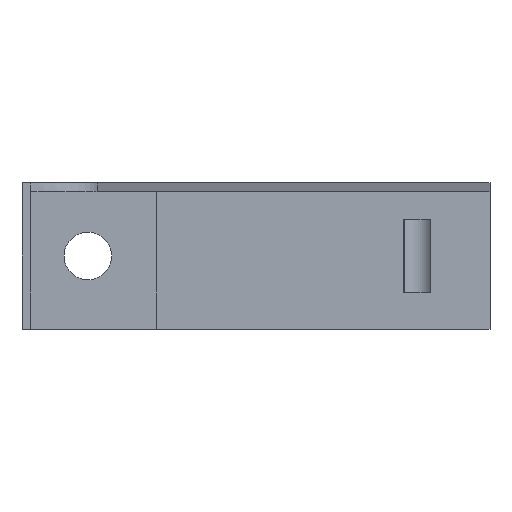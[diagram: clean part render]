
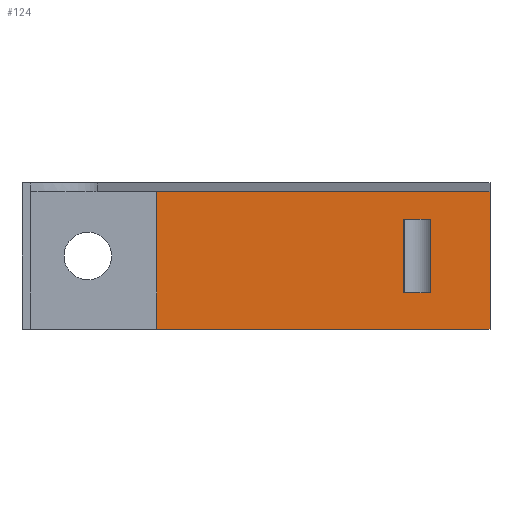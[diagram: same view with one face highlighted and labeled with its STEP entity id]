
A CAD part, left-side view. The second image highlights one B-rep face of the part: STEP entity #124.
In plain terms, the highlighted planar face has unit normal (-1, 0, 0).
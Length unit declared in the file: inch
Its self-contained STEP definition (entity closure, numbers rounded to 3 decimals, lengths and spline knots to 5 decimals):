
#124=ADVANCED_FACE('',(#340,#341),#342,.T.);
#150=EDGE_CURVE('',#380,#381,#382,.T.);
#220=EDGE_CURVE('',#459,#493,#494,.T.);
#266=EDGE_CURVE('',#381,#493,#562,.T.);
#320=EDGE_CURVE('',#380,#459,#643,.T.);
#340=FACE_OUTER_BOUND('',#653,.T.);
#341=FACE_BOUND('',#654,.T.);
#342=PLANE('',#655);
#380=VERTEX_POINT('',#767);
#381=VERTEX_POINT('',#768);
#382=LINE('',#769,#770);
#459=VERTEX_POINT('',#928);
#493=VERTEX_POINT('',#1003);
#494=LINE('',#1004,#1005);
#562=LINE('',#1173,#1174);
#643=LINE('',#1358,#1359);
#653=EDGE_LOOP('',(#1366,#1367,#1368,#1369));
#654=EDGE_LOOP('',(#1370,#1371,#1372,#1373));
#655=AXIS2_PLACEMENT_3D('',#1374,#1375,#1376);
#767=CARTESIAN_POINT('',(6.21422,-1.53984,0.0));
#768=CARTESIAN_POINT('',(6.21422,-1.53984,1.175));
#769=CARTESIAN_POINT('',(6.21422,-1.53984,0.0));
#770=VECTOR('',#1460,1.0);
#928=CARTESIAN_POINT('',(6.21422,1.31016,0.0));
#1003=CARTESIAN_POINT('',(6.21422,1.31016,1.175));
#1004=CARTESIAN_POINT('',(6.21422,1.31016,0.0));
#1005=VECTOR('',#1595,1.0);
#1173=CARTESIAN_POINT('',(6.21422,-1.53984,1.175));
#1174=VECTOR('',#1720,1.0);
#1358=CARTESIAN_POINT('',(6.21422,-1.53984,0.0));
#1359=VECTOR('',#1875,1.0);
#1366=ORIENTED_EDGE('',*,*,#266,.T.);
#1367=ORIENTED_EDGE('',*,*,#220,.F.);
#1368=ORIENTED_EDGE('',*,*,#320,.F.);
#1369=ORIENTED_EDGE('',*,*,#150,.T.);
#1370=ORIENTED_EDGE('',*,*,#1878,.T.);
#1371=ORIENTED_EDGE('',*,*,#1879,.T.);
#1372=ORIENTED_EDGE('',*,*,#1880,.T.);
#1373=ORIENTED_EDGE('',*,*,#1881,.T.);
#1374=CARTESIAN_POINT('',(6.21422,-0.11484,0.0));
#1375=DIRECTION('',(-1.0,-0.0,0.0));
#1376=DIRECTION('',(0.0,-1.0,-0.0));
#1460=DIRECTION('',(0.0,0.0,1.0));
#1595=DIRECTION('',(0.0,0.0,1.0));
#1720=DIRECTION('',(0.0,1.0,0.0));
#1875=DIRECTION('',(0.0,1.0,0.0));
#1878=EDGE_CURVE('',#2081,#2082,#2083,.T.);
#1879=EDGE_CURVE('',#2082,#2084,#2085,.T.);
#1880=EDGE_CURVE('',#2084,#2086,#2087,.T.);
#1881=EDGE_CURVE('',#2086,#2081,#2088,.T.);
#2081=VERTEX_POINT('',#2376);
#2082=VERTEX_POINT('',#2377);
#2083=LINE('',#2378,#2379);
#2084=VERTEX_POINT('',#2380);
#2085=LINE('',#2381,#2382);
#2086=VERTEX_POINT('',#2383);
#2087=LINE('',#2384,#2385);
#2088=LINE('',#2386,#2387);
#2376=CARTESIAN_POINT('',(6.21422,-1.02943,0.9375));
#2377=CARTESIAN_POINT('',(6.21422,-1.02943,0.3125));
#2378=CARTESIAN_POINT('',(6.21422,-1.02943,0.3125));
#2379=VECTOR('',#2962,1.0);
#2380=CARTESIAN_POINT('',(6.21422,-0.80031,0.3125));
#2381=CARTESIAN_POINT('',(6.21422,-0.51486,0.3125));
#2382=VECTOR('',#2963,1.0);
#2383=CARTESIAN_POINT('',(6.21422,-0.80031,0.9375));
#2384=CARTESIAN_POINT('',(6.21422,-0.80031,0.3125));
#2385=VECTOR('',#2964,1.0);
#2386=CARTESIAN_POINT('',(6.21422,-0.51486,0.9375));
#2387=VECTOR('',#2965,1.0);
#2962=DIRECTION('',(0.0,0.0,-1.0));
#2963=DIRECTION('',(0.0,1.0,0.0));
#2964=DIRECTION('',(0.0,0.0,1.0));
#2965=DIRECTION('',(0.0,-1.0,0.0));
